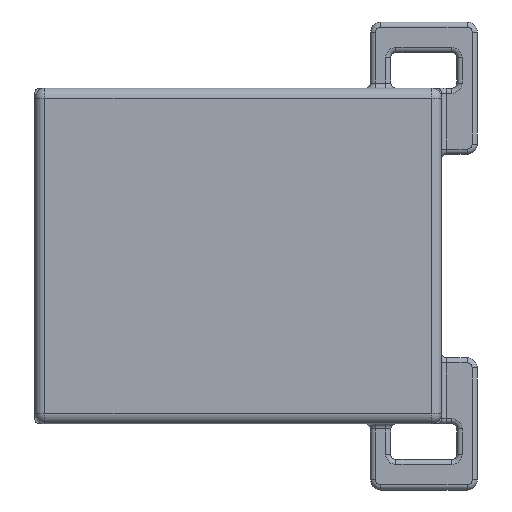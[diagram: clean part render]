
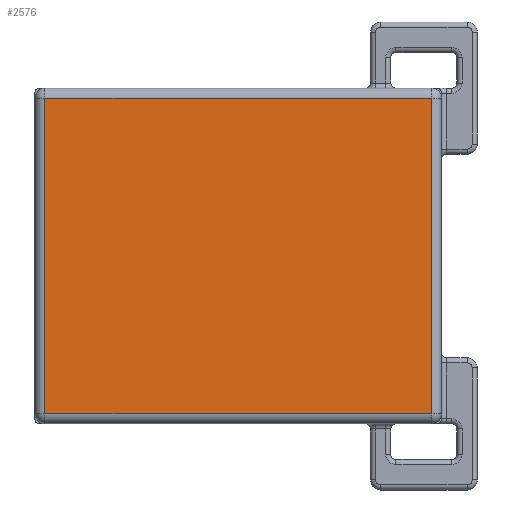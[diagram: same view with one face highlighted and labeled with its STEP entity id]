
A CAD part, front view. The second image highlights one B-rep face of the part: STEP entity #2576.
In plain terms, the highlighted planar face has unit normal (0, -1, 0) as drawn and (0, 1, 0) by its records, which use the part's own axes.
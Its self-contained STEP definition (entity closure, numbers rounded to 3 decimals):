
#512 = DIRECTION ( 'NONE',  ( 0., -1., 0. ) ) ;
#1869 = VECTOR ( 'NONE', #8130, 1000. ) ;
#2063 = DIRECTION ( 'NONE',  ( 0., 0., -1. ) ) ;
#2434 = EDGE_CURVE ( 'NONE', #7947, #11472, #4609, .T. ) ;
#2576 = ADVANCED_FACE ( 'NONE', ( #3221 ), #11865, .F. ) ;
#2685 = DIRECTION ( 'NONE',  ( 1., 0., 0. ) ) ;
#3004 = EDGE_CURVE ( 'NONE', #9631, #7250, #7175, .T. ) ;
#3199 = VECTOR ( 'NONE', #2685, 1000. ) ;
#3221 = FACE_OUTER_BOUND ( 'NONE', #6213, .T. ) ;
#3255 = ORIENTED_EDGE ( 'NONE', *, *, #6181, .T. ) ;
#3418 = ORIENTED_EDGE ( 'NONE', *, *, #2434, .T. ) ;
#4609 = LINE ( 'NONE', #6739, #10372 ) ;
#4887 = EDGE_CURVE ( 'NONE', #11472, #9631, #9243, .T. ) ;
#5195 = CARTESIAN_POINT ( 'NONE',  ( -20., 13.206, 16.5 ) ) ;
#5875 = CARTESIAN_POINT ( 'NONE',  ( -19., 13.206, 15.5 ) ) ;
#6181 = EDGE_CURVE ( 'NONE', #7250, #7947, #7446, .T. ) ;
#6213 = EDGE_LOOP ( 'NONE', ( #3255, #3418, #6301, #12009 ) ) ;
#6301 = ORIENTED_EDGE ( 'NONE', *, *, #4887, .T. ) ;
#6739 = CARTESIAN_POINT ( 'NONE',  ( -20., 13.206, -15.5 ) ) ;
#7167 = DIRECTION ( 'NONE',  ( 0., 0., -1. ) ) ;
#7175 = LINE ( 'NONE', #12118, #3199 ) ;
#7200 = CARTESIAN_POINT ( 'NONE',  ( 19., 13.206, 15.5 ) ) ;
#7250 = VERTEX_POINT ( 'NONE', #7200 ) ;
#7446 = LINE ( 'NONE', #9607, #9692 ) ;
#7841 = CARTESIAN_POINT ( 'NONE',  ( -19., 13.206, -15.5 ) ) ;
#7947 = VERTEX_POINT ( 'NONE', #8656 ) ;
#8130 = DIRECTION ( 'NONE',  ( 0., 0., 1. ) ) ;
#8196 = CARTESIAN_POINT ( 'NONE',  ( -19., 13.206, 16.5 ) ) ;
#8656 = CARTESIAN_POINT ( 'NONE',  ( 19., 13.206, -15.5 ) ) ;
#9243 = LINE ( 'NONE', #8196, #1869 ) ;
#9535 = DIRECTION ( 'NONE',  ( -1., 0., 0. ) ) ;
#9607 = CARTESIAN_POINT ( 'NONE',  ( 19., 13.206, 16.5 ) ) ;
#9631 = VERTEX_POINT ( 'NONE', #5875 ) ;
#9692 = VECTOR ( 'NONE', #2063, 1000. ) ;
#10372 = VECTOR ( 'NONE', #9535, 1000. ) ;
#11162 = AXIS2_PLACEMENT_3D ( 'NONE', #5195, #512, #7167 ) ;
#11472 = VERTEX_POINT ( 'NONE', #7841 ) ;
#11865 = PLANE ( 'NONE',  #11162 ) ;
#12009 = ORIENTED_EDGE ( 'NONE', *, *, #3004, .T. ) ;
#12118 = CARTESIAN_POINT ( 'NONE',  ( 20., 13.206, 15.5 ) ) ;
